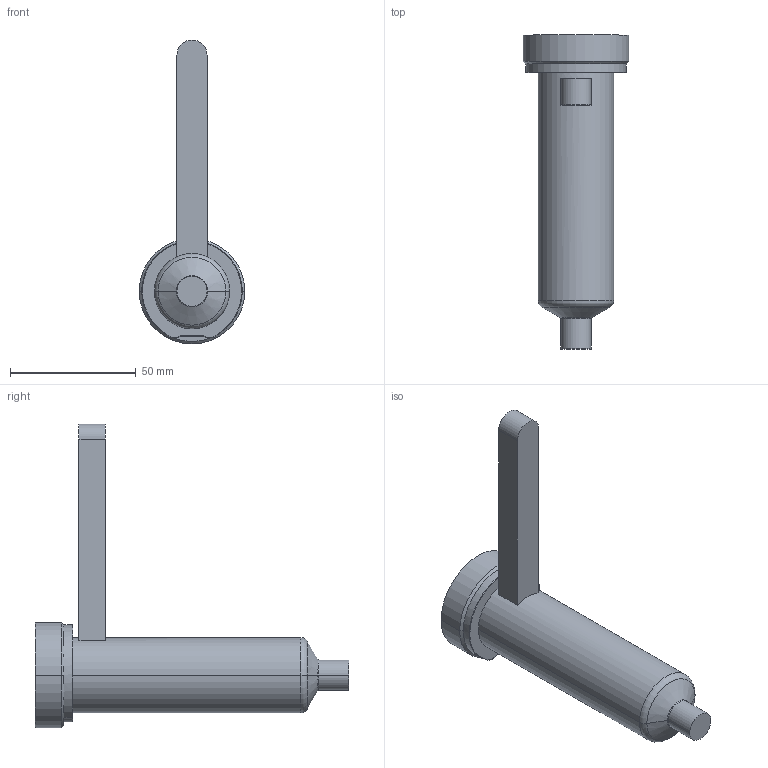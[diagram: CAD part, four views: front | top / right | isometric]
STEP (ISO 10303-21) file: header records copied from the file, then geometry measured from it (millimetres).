
FILE_DESCRIPTION((''),'2;1');
FILE_NAME('EO08_PG-FBE_WR_100_COT','2024-02-19T11:56:15',('sundharh'),(''),'CREO PARAMETRIC BY PTC INC, 2023154','CREO PARAMETRIC BY PTC INC, 2023154','');
FILE_SCHEMA(('CONFIG_CONTROL_DESIGN'));
Length unit declared in the file: millimetre
Products named in the file (1): EO08_PG-FBE_WR_100_COT
Bounding box: 42 x 125 x 121 mm (x, y, z)
Volume: 99450.2 mm3; surface area: 17652.3 mm2
Topology: 1 solids, 1 shells, 31 faces, 67 edges, 40 vertices
Faces by surface type: cylinder 11, plane 9, torus 7, cone 4
Entity records: 951 total; most frequent: CARTESIAN_POINT 218, DIRECTION 159, ORIENTED_EDGE 134, AXIS2_PLACEMENT_3D 67, EDGE_CURVE 67, VERTEX_POINT 40, CIRCLE 36, EDGE_LOOP 33
